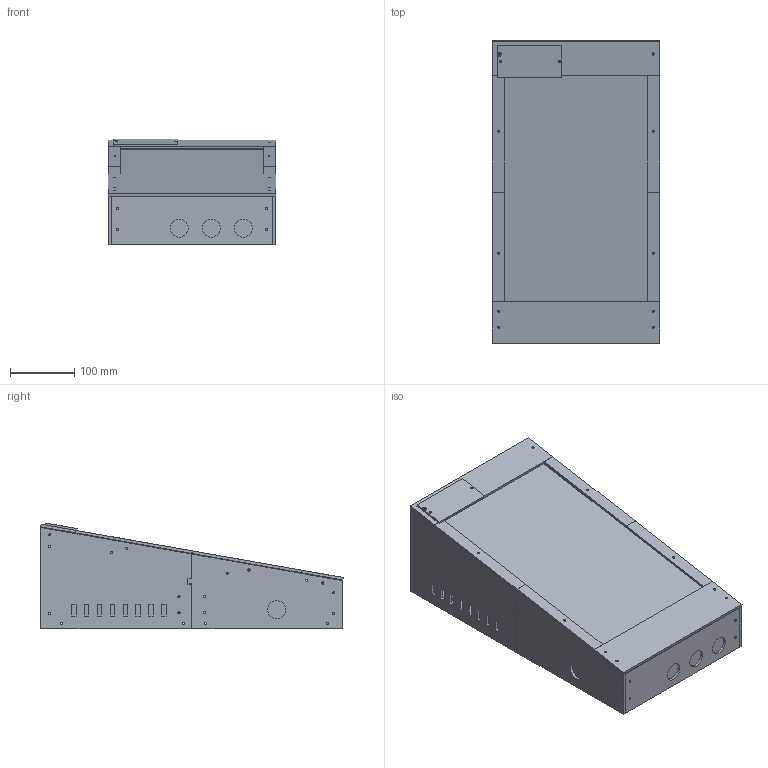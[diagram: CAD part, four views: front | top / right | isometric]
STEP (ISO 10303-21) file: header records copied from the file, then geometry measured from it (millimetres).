
FILE_DESCRIPTION(('Open CASCADE Model'),'2;1');
FILE_NAME('Open CASCADE Shape Model','2026-10-16T16:37:30',('Author'),( 'Open CASCADE'),'Open CASCADE STEP processor 7.8','Open CASCADE 7.8' ,'Unknown');
FILE_SCHEMA(('AUTOMOTIVE_DESIGN { 1 0 10303 214 1 1 1 1 }'));
Length unit declared in the file: millimetre
Products named in the file (57): Mini_VPin_Prototype_V1_1; left_front_wall; left_rear_wall; right_front_wall; right_rear_wall; front_button_panel; rear_vent_panel; corner_left_front_24; corner_left_front_56; corner_left_rear_24; corner_left_rear_128; corner_right_front_24; corner_right_front_56; corner_right_rear_24; corner_right_rear_128; splice_left; splice_right; floor_block_left_28; floor_block_left_218; floor_block_left_252; floor_block_left_442; floor_block_right_28; floor_block_right_218; floor_block_right_252; floor_block_right_442; bottom_front; bottom_rear; top_block_left_25; top_block_left_50; top_block_left_140; top_block_left_330; top_block_left_450; top_block_right_25; top_block_right_50; top_block_right_140; top_block_right_330; top_block_right_450; monitor_saddle_left_180; monitor_saddle_left_360; monitor_saddle_right_180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
Assembly tree (56 placements, depth 2):
  Mini_VPin_Prototype_V1_1
    left_front_wall
    left_rear_wall
    right_front_wall
    right_rear_wall
    front_button_panel
    rear_vent_panel
    corner_left_front_24
    corner_left_front_56
    corner_left_rear_24
    corner_left_rear_128
    corner_right_front_24
    corner_right_front_56
    corner_right_rear_24
    corner_right_rear_128
    splice_left
    splice_right
    floor_block_left_28
    floor_block_left_218
    floor_block_left_252
    floor_block_left_442
    floor_block_right_28
    floor_block_right_218
    floor_block_right_252
    floor_block_right_442
    bottom_front
    bottom_rear
    top_block_left_25
    top_block_left_50
    top_block_left_140
    top_block_left_330
    top_block_left_450
    top_block_right_25
    top_block_right_50
    top_block_right_140
    top_block_right_330
    top_block_right_450
    monitor_saddle_left_180
    monitor_saddle_left_360
    monitor_saddle_right_180
    monitor_saddle_right_360
    bezel_left_front
    bezel_left_rear
    bezel_right_front
    bezel_right_rear
    front_cable_lid
    rear_control_deck
    control_hatch
    REFERENCE_monitor_12mm_envelope
    REFERENCE_PC_allowance_ports_face_front
    REFERENCE_0_front_button_110
    REFERENCE_1_front_button_160
    REFERENCE_2_front_button_210
    REFERENCE_3_left_flipper
    REFERENCE_4_right_flipper
    REFERENCE_5_central_folded_cover_reserve
    REFERENCE_6_USB_encoder_allowance
Bounding box: 260 x 470.69 x 164.59 mm (x, y, z)
Volume: 6493296.5 mm3; surface area: 1288395.3 mm2
Topology: 56 solids, 56 shells, 801 faces, 2025 edges, 1350 vertices
Faces by surface type: plane 663, cylinder 138
Full cylindrical faces by diameter (mm): 3.4 x132, 28 x5
Entity records: 51994 total; most frequent: CARTESIAN_POINT 9373, DIRECTION 7428, LINE 4865, VECTOR 4865, ORIENTED_EDGE 4050, PCURVE 4050, DEFINITIONAL_REPRESENTATION 4050, EDGE_CURVE 2025
